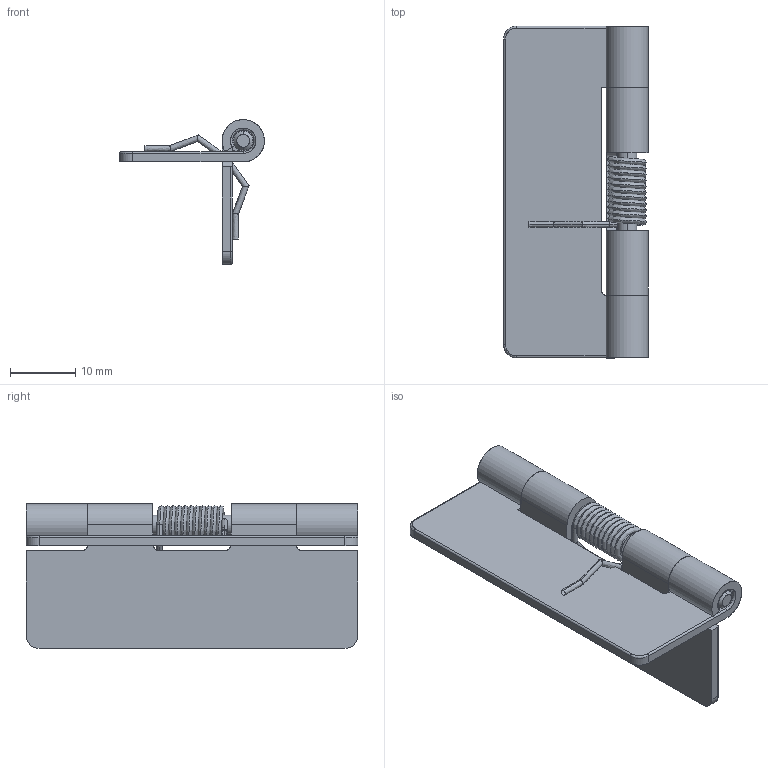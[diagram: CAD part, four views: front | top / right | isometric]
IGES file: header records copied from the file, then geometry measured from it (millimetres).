
Start section: SolidWorks IGES FILE using analytic representation for surfaces
Global section: file name: E:\妙子\仕事\solidworks\ヒンジ20130815\DEH-40\DEH-40-4\DEH-40-4.IGS; native system: SolidWorks 2003 by SolidWorks Corporation; preprocessor: Version 5.3; author: 妙子,,; organization: 11; date: 130815.133701; units: millimetre
Bounding box: 22.25 x 51 x 22.25 mm (x, y, z)
Surface area: 6093.2 mm2 (no closed solid volume)
Topology: 0 solids, 0 shells, 87 faces, 1222 edges, 1222 vertices
Faces by surface type: revolution 47, bspline 40
